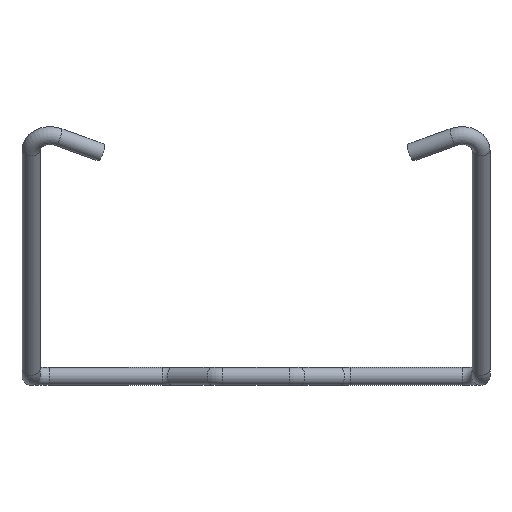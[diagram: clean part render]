
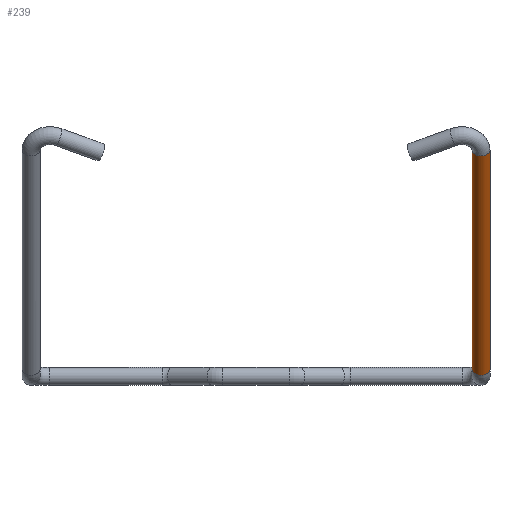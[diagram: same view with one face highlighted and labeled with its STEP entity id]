
A CAD part, front view. The second image highlights one B-rep face of the part: STEP entity #239.
In plain terms, the highlighted cylindrical face has radius 0.45 mm (diameter 0.9 mm), a full revolution.
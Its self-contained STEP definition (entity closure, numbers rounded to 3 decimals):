
#18=CYLINDRICAL_SURFACE('',#267,0.45);
#30=FACE_BOUND('',#78,.T.);
#52=FACE_OUTER_BOUND('',#77,.T.);
#77=EDGE_LOOP('',(#187));
#78=EDGE_LOOP('',(#188));
#116=CIRCLE('',#262,0.45);
#119=CIRCLE('',#268,0.45);
#138=VERTEX_POINT('',#400);
#141=VERTEX_POINT('',#409);
#160=EDGE_CURVE('',#138,#138,#116,.T.);
#163=EDGE_CURVE('',#141,#141,#119,.T.);
#187=ORIENTED_EDGE('',*,*,#160,.T.);
#188=ORIENTED_EDGE('',*,*,#163,.T.);
#239=ADVANCED_FACE('',(#52,#30),#18,.T.);
#262=AXIS2_PLACEMENT_3D('',#401,#310,#311);
#267=AXIS2_PLACEMENT_3D('',#408,#320,#321);
#268=AXIS2_PLACEMENT_3D('',#410,#322,#323);
#310=DIRECTION('center_axis',(0.,0.643,-0.766));
#311=DIRECTION('ref_axis',(1.,0.,0.));
#320=DIRECTION('center_axis',(0.,0.643,-0.766));
#321=DIRECTION('ref_axis',(1.,0.,0.));
#322=DIRECTION('center_axis',(0.,-0.643,0.766));
#323=DIRECTION('ref_axis',(1.,0.,0.));
#400=CARTESIAN_POINT('',(22.05,-33.928,11.304));
#401=CARTESIAN_POINT('Origin',(22.5,-33.928,11.304));
#408=CARTESIAN_POINT('Origin',(22.5,-24.728,0.339));
#409=CARTESIAN_POINT('',(22.05,-24.728,0.339));
#410=CARTESIAN_POINT('Origin',(22.5,-24.728,0.339));
